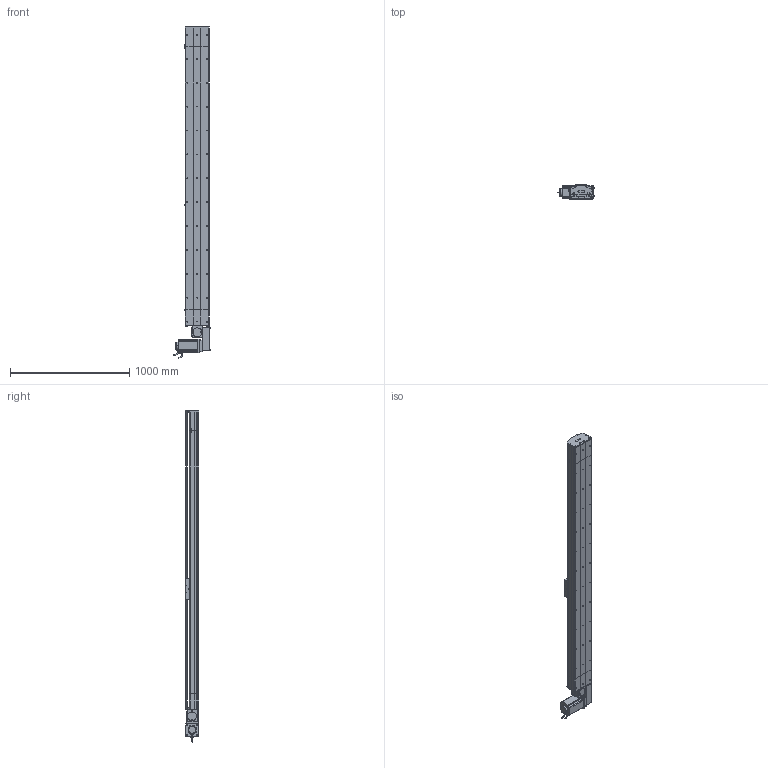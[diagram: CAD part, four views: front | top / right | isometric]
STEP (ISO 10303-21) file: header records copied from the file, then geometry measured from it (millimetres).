
FILE_DESCRIPTION (( 'STEP AP214' ), '1' );
FILE_NAME ('D20 TBH LH S2200.STEP', '2010-07-01T07:59:27', ( 'Conseil Régional Haute-Normandie' ), ( 'Conseil Régional Haute-Normandie' ), 'SwSTEP 2.0', 'SolidWorks 2010', '' );
FILE_SCHEMA (( 'AUTOMOTIVE_DESIGN' ));
Length unit declared in the file: millimetre
Products named in the file (40): rail + couroie  D20 S2200; Renvoi LH D20_Default; cache arbre D20_Default; plaque de  bout head D20B LH_Default; poulie head D20_Default; head LH_Default; couvercle head D20_Default; rail head D20; corpl head D20_Default; couroie_Default; cache D20_Default; vis M5 L5_Default; Plaque racord D20LH_Default; plaque de  bout tail D20_Default; poulie tail D20_Default; corpl tail D20_Default; vis M8 L12_Default; clavette; Conecteur_Default; Conecteur2_Default; codeur 110BLDC170A-630x; corps 110BLDC170A-630x; vis M5 L70_Default; tail D20_Default; vis M5 L12_Default; tete d''axe poulie D20B; couvercle tail D20_Default; Couroie tail D20_Default; avant 110BLDC170A-630x; Moteur motionking 110BLDC170A-640x; rail tail D20; vis M5 L8 90°_Default; vis M5 L25_Default; D20 TBH LH S2200; guide D20B; Chariot D20B; chariot D20B_Default; couvercle D20 S2200_Default; corp D20 S2200_Default; Course B L2200_Default
Assembly tree (71 placements, depth 4):
  D20 TBH LH S2200
    tail D20_Default
      vis M5 L12_Default  x4
      rail tail D20
      couvercle tail D20_Default
      plaque de  bout tail D20_Default
      vis M5 L25_Default  x2
      poulie tail D20_Default
      vis M5 L8 90°_Default  x2
      corpl tail D20_Default
      Couroie tail D20_Default
      tete d''axe poulie D20B
    head LH_Default
      vis M5 L12_Default  x10
      cache D20_Default  x2
      vis M8 L12_Default  x4
      vis M5 L70_Default  x4
      Plaque racord D20LH_Default
      vis M5 L25_Default  x2
      vis M5 L5_Default  x4
      rail head D20
      Moteur motionking 110BLDC170A-640x
        avant 110BLDC170A-630x
        Conecteur_Default
        Conecteur2_Default
        clavette
        codeur 110BLDC170A-630x
        corps 110BLDC170A-630x
      poulie head D20_Default
      couvercle head D20_Default
      corpl head D20_Default
      cache arbre D20_Default
      plaque de  bout head D20B LH_Default
      couroie_Default
      Renvoi LH D20_Default
    chariot D20B_Default
      vis M5 L12_Default  x4
      guide D20B  x2
      Chariot D20B
    Course B L2200_Default
      rail + couroie  D20 S2200
      corp D20 S2200_Default
      couvercle D20 S2200_Default
Bounding box: 304.2 x 115.7 x 2780 mm (x, y, z)
Volume: 21646595.8 mm3; surface area: 5247730.4 mm2
Topology: 95 solids, 95 shells, 2791 faces, 7095 edges, 4581 vertices
Faces by surface type: plane 1628, cylinder 839, bspline 136, cone 99, torus 89
Entity records: 88824 total; most frequent: CARTESIAN_POINT 28647, ORIENTED_EDGE 10846, DIRECTION 10226, EDGE_CURVE 5423, VERTEX_POINT 3567, LINE 3490, VECTOR 3490, AXIS2_PLACEMENT_3D 3368
